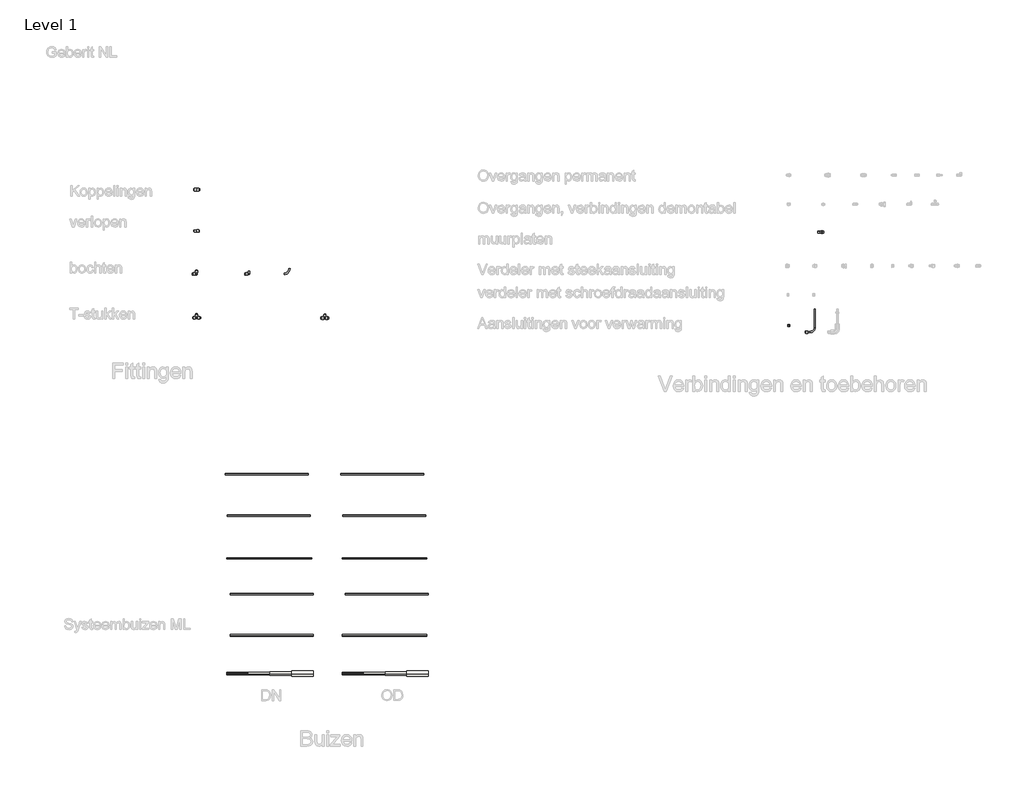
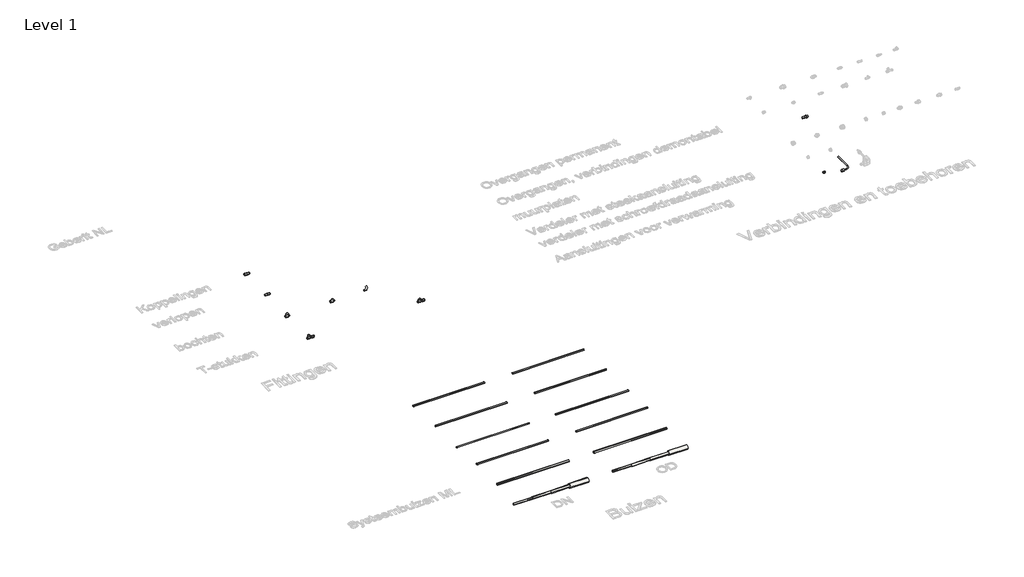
# One storey, part 1 of 9: 19 pipe segments, 10 coverings, 9 pipe fittings.
"""IFC4 building model written with IfcOpenShell, lengths in millimetres."""

from ifc_helpers import new_model, si_unit, point, frame, frame_2d, origin, place, context, project, spatial, circle_curve, trimmed, segment, composite_curve, outline, extrude, transform, mapped, element, save
from components import pipe_fitting_a43a226b, pipe_fitting_dd8badfe, dn12_15_d16_20_1933c9d4, dn12_15_d16_20_9174b6bf, dn12_20_d16_25_6916eeb4, dn12_20_d16_25_b63a6013, dn12_20_d16_25_a9f4dc1a, dn12_20_d16_25_c7b3e6c1, dn12_20_d16_25_7a63371c, dn12_20_d16_25_e8a55d3e

model = new_model("IFC4")

# Units and contexts
model_context = context("Model", 3, world=origin())
ifc_project = project(units=[si_unit("LENGTHUNIT", "METRE", prefix="MILLI")], contexts=[model_context])

# Site, building, storey
site = spatial("IfcSite", under=ifc_project)
building = spatial("IfcBuilding", under=site)
storey = spatial("IfcBuildingStorey", under=building, Name="Level 1", Elevation=0.0)

# Coverings
placement = place(None, origin())
element("IfcCovering", 1, ObjectType="PE-zachtschuim rood (6mm) voor ML", at=placement, inside=storey, context=model_context, shape_type="SweptSolid", body=[
    extrude(outline(composite_curve([segment(trimmed(circle_curve(frame_2d((-320.8939923, 0.0)), 14.0), [point((-306.8939923, 0.0))], [point((-320.8939923, -14.0))], False, "CARTESIAN"), True, "CONTINUOUS"), segment(trimmed(circle_curve(frame_2d((-320.8939923, 0.0)), 14.0), [point((-320.8939923, -14.0))], [point((-334.8939923, 0.0))], False, "CARTESIAN"), True, "CONTINUOUS"), segment(trimmed(circle_curve(frame_2d((-320.8939923, 0.0)), 14.0), [point((-334.8939923, 0.0))], [point((-320.8939923, 14.0))], False, "CARTESIAN"), True, "CONTINUOUS"), segment(trimmed(circle_curve(frame_2d((-320.8939923, 0.0)), 14.0), [point((-320.8939923, 14.0))], [point((-306.8939923, 0.0))], False, "CARTESIAN"), True, "CONTINUOUS")], self_intersect=False)), frame((227.5416352, 0.0, 0.0), z_axis=(1.0, 0.0, 0.0), x_axis=(0.0, 1.0, 0.0)), (0.0, 0.0, 1.0), 1080.0),
])
element("IfcCovering", 2, ObjectType="PE-zachtschuim rood (6mm) voor ML", at=placement, inside=storey, context=model_context, shape_type="SweptSolid", body=[
    extrude(outline(composite_curve([segment(trimmed(circle_curve(frame_2d((-320.8939923, 0.0)), 14.0), [point((-306.8939923, 0.0))], [point((-320.8939923, -14.0))], False, "CARTESIAN"), True, "CONTINUOUS"), segment(trimmed(circle_curve(frame_2d((-320.8939923, 0.0)), 14.0), [point((-320.8939923, -14.0))], [point((-334.8939923, 0.0))], False, "CARTESIAN"), True, "CONTINUOUS"), segment(trimmed(circle_curve(frame_2d((-320.8939923, 0.0)), 14.0), [point((-334.8939923, 0.0))], [point((-320.8939923, 14.0))], False, "CARTESIAN"), True, "CONTINUOUS"), segment(trimmed(circle_curve(frame_2d((-320.8939923, 0.0)), 14.0), [point((-320.8939923, 14.0))], [point((-306.8939923, 0.0))], False, "CARTESIAN"), True, "CONTINUOUS")], self_intersect=False)), frame((1687.1216877, 0.0, 0.0), z_axis=(1.0, 0.0, 0.0), x_axis=(0.0, 1.0, 0.0)), (0.0, 0.0, 1.0), 1100.0),
])
element("IfcCovering", 3, ObjectType="PE-zachtschuim blauw (6-10-13-26mm) voor ML", at=placement, inside=storey, context=model_context, shape_type="SweptSolid", body=[
    extrude(outline(composite_curve([segment(trimmed(circle_curve(frame_2d((-820.8939923, 0.0)), 14.0), [point((-806.8939923, 0.0))], [point((-820.8939923, -14.0))], False, "CARTESIAN"), True, "CONTINUOUS"), segment(trimmed(circle_curve(frame_2d((-820.8939923, 0.0)), 14.0), [point((-820.8939923, -14.0))], [point((-834.8939923, 0.0))], False, "CARTESIAN"), True, "CONTINUOUS"), segment(trimmed(circle_curve(frame_2d((-820.8939923, 0.0)), 14.0), [point((-834.8939923, 0.0))], [point((-820.8939923, 14.0))], False, "CARTESIAN"), True, "CONTINUOUS"), segment(trimmed(circle_curve(frame_2d((-820.8939923, 0.0)), 14.0), [point((-820.8939923, 14.0))], [point((-806.8939923, 0.0))], False, "CARTESIAN"), True, "CONTINUOUS")], self_intersect=False)), frame((187.1216877, 0.0, 0.0), z_axis=(1.0, 0.0, 0.0), x_axis=(0.0, 1.0, 0.0)), (0.0, 0.0, 1.0), 280.0),
])
element("IfcCovering", 4, ObjectType="PE-zachtschuim blauw (6-10-13-26mm) voor ML", at=placement, inside=storey, context=model_context, shape_type="SweptSolid", body=[
    extrude(outline(composite_curve([segment(trimmed(circle_curve(frame_2d((-820.8939923, 0.0)), 14.0), [point((-806.8939923, 0.0))], [point((-820.8939923, -14.0))], False, "CARTESIAN"), True, "CONTINUOUS"), segment(trimmed(circle_curve(frame_2d((-820.8939923, 0.0)), 14.0), [point((-820.8939923, -14.0))], [point((-834.8939923, 0.0))], False, "CARTESIAN"), True, "CONTINUOUS"), segment(trimmed(circle_curve(frame_2d((-820.8939923, 0.0)), 14.0), [point((-834.8939923, 0.0))], [point((-820.8939923, 14.0))], False, "CARTESIAN"), True, "CONTINUOUS"), segment(trimmed(circle_curve(frame_2d((-820.8939923, 0.0)), 14.0), [point((-820.8939923, 14.0))], [point((-806.8939923, 0.0))], False, "CARTESIAN"), True, "CONTINUOUS")], self_intersect=False)), frame((1687.1216877, 0.0, 0.0), z_axis=(1.0, 0.0, 0.0), x_axis=(0.0, 1.0, 0.0)), (0.0, 0.0, 1.0), 280.0),
])
element("IfcCovering", 5, ObjectType="PE-zachtschuim blauw (6-10-13-26mm) voor ML", at=placement, inside=storey, context=model_context, shape_type="SweptSolid", body=[
    extrude(outline(composite_curve([segment(trimmed(circle_curve(frame_2d((-820.8939923, 0.0)), 18.0), [point((-802.8939923, 0.0))], [point((-820.8939923, -18.0))], False, "CARTESIAN"), True, "CONTINUOUS"), segment(trimmed(circle_curve(frame_2d((-820.8939923, 0.0)), 18.0), [point((-820.8939923, -18.0))], [point((-838.8939923, 0.0))], False, "CARTESIAN"), True, "CONTINUOUS"), segment(trimmed(circle_curve(frame_2d((-820.8939923, 0.0)), 18.0), [point((-838.8939923, 0.0))], [point((-820.8939923, 18.0))], False, "CARTESIAN"), True, "CONTINUOUS"), segment(trimmed(circle_curve(frame_2d((-820.8939923, 0.0)), 18.0), [point((-820.8939923, 18.0))], [point((-802.8939923, 0.0))], False, "CARTESIAN"), True, "CONTINUOUS")], self_intersect=False)), frame((467.1216877, 0.0, 0.0), z_axis=(1.0, 0.0, 0.0), x_axis=(0.0, 1.0, 0.0)), (0.0, 0.0, 1.0), 280.0),
])
element("IfcCovering", 6, ObjectType="PE-zachtschuim blauw (6-10-13-26mm) voor ML", at=placement, inside=storey, context=model_context, shape_type="SweptSolid", body=[
    extrude(outline(composite_curve([segment(trimmed(circle_curve(frame_2d((-820.8939923, 0.0)), 18.0), [point((-802.8939923, 0.0))], [point((-820.8939923, -18.0))], False, "CARTESIAN"), True, "CONTINUOUS"), segment(trimmed(circle_curve(frame_2d((-820.8939923, 0.0)), 18.0), [point((-820.8939923, -18.0))], [point((-838.8939923, 0.0))], False, "CARTESIAN"), True, "CONTINUOUS"), segment(trimmed(circle_curve(frame_2d((-820.8939923, 0.0)), 18.0), [point((-838.8939923, 0.0))], [point((-820.8939923, 18.0))], False, "CARTESIAN"), True, "CONTINUOUS"), segment(trimmed(circle_curve(frame_2d((-820.8939923, 0.0)), 18.0), [point((-820.8939923, 18.0))], [point((-802.8939923, 0.0))], False, "CARTESIAN"), True, "CONTINUOUS")], self_intersect=False)), frame((1967.1216877, 0.0, 0.0), z_axis=(1.0, 0.0, 0.0), x_axis=(0.0, 1.0, 0.0)), (0.0, 0.0, 1.0), 280.0),
])
element("IfcCovering", 7, ObjectType="PE-zachtschuim blauw (6-10-13-26mm) voor ML", at=placement, inside=storey, context=model_context, shape_type="SweptSolid", body=[
    extrude(outline(composite_curve([segment(trimmed(circle_curve(frame_2d((-820.8939923, 0.0)), 21.0), [point((-799.8939923, 0.0))], [point((-820.8939923, -21.0))], False, "CARTESIAN"), True, "CONTINUOUS"), segment(trimmed(circle_curve(frame_2d((-820.8939923, 0.0)), 21.0), [point((-820.8939923, -21.0))], [point((-841.8939923, 0.0))], False, "CARTESIAN"), True, "CONTINUOUS"), segment(trimmed(circle_curve(frame_2d((-820.8939923, 0.0)), 21.0), [point((-841.8939923, 0.0))], [point((-820.8939923, 21.0))], False, "CARTESIAN"), True, "CONTINUOUS"), segment(trimmed(circle_curve(frame_2d((-820.8939923, 0.0)), 21.0), [point((-820.8939923, 21.0))], [point((-799.8939923, 0.0))], False, "CARTESIAN"), True, "CONTINUOUS")], self_intersect=False)), frame((747.1216877, 0.0, 0.0), z_axis=(1.0, 0.0, 0.0), x_axis=(0.0, 1.0, 0.0)), (0.0, 0.0, 1.0), 280.0),
])
element("IfcCovering", 8, ObjectType="PE-zachtschuim blauw (6-10-13-26mm) voor ML", at=placement, inside=storey, context=model_context, shape_type="SweptSolid", body=[
    extrude(outline(composite_curve([segment(trimmed(circle_curve(frame_2d((-820.8939923, 0.0)), 21.0), [point((-799.8939923, 0.0))], [point((-820.8939923, -21.0))], False, "CARTESIAN"), True, "CONTINUOUS"), segment(trimmed(circle_curve(frame_2d((-820.8939923, 0.0)), 21.0), [point((-820.8939923, -21.0))], [point((-841.8939923, 0.0))], False, "CARTESIAN"), True, "CONTINUOUS"), segment(trimmed(circle_curve(frame_2d((-820.8939923, 0.0)), 21.0), [point((-841.8939923, 0.0))], [point((-820.8939923, 21.0))], False, "CARTESIAN"), True, "CONTINUOUS"), segment(trimmed(circle_curve(frame_2d((-820.8939923, 0.0)), 21.0), [point((-820.8939923, 21.0))], [point((-799.8939923, 0.0))], False, "CARTESIAN"), True, "CONTINUOUS")], self_intersect=False)), frame((2247.1216877, 0.0, 0.0), z_axis=(1.0, 0.0, 0.0), x_axis=(0.0, 1.0, 0.0)), (0.0, 0.0, 1.0), 280.0),
])
element("IfcCovering", 9, ObjectType="PE-zachtschuim blauw (6-10-13-26mm) voor ML", at=placement, inside=storey, context=model_context, shape_type="SweptSolid", body=[
    extrude(outline(composite_curve([segment(trimmed(circle_curve(frame_2d((-820.8939923, 0.0)), 34.0), [point((-786.8939923, 0.0))], [point((-820.8939923, -34.0))], False, "CARTESIAN"), True, "CONTINUOUS"), segment(trimmed(circle_curve(frame_2d((-820.8939923, 0.0)), 34.0), [point((-820.8939923, -34.0))], [point((-854.8939923, 0.0))], False, "CARTESIAN"), True, "CONTINUOUS"), segment(trimmed(circle_curve(frame_2d((-820.8939923, 0.0)), 34.0), [point((-854.8939923, 0.0))], [point((-820.8939923, 34.0))], False, "CARTESIAN"), True, "CONTINUOUS"), segment(trimmed(circle_curve(frame_2d((-820.8939923, 0.0)), 34.0), [point((-820.8939923, 34.0))], [point((-786.8939923, 0.0))], False, "CARTESIAN"), True, "CONTINUOUS")], self_intersect=False)), frame((1027.1216877, 0.0, 0.0), z_axis=(1.0, 0.0, 0.0), x_axis=(0.0, 1.0, 0.0)), (0.0, 0.0, 1.0), 280.0),
])
element("IfcCovering", 10, ObjectType="PE-zachtschuim blauw (6-10-13-26mm) voor ML", at=placement, inside=storey, context=model_context, shape_type="SweptSolid", body=[
    extrude(outline(composite_curve([segment(trimmed(circle_curve(frame_2d((-820.8939923, 0.0)), 34.0), [point((-786.8939923, 0.0))], [point((-820.8939923, -34.0))], False, "CARTESIAN"), True, "CONTINUOUS"), segment(trimmed(circle_curve(frame_2d((-820.8939923, 0.0)), 34.0), [point((-820.8939923, -34.0))], [point((-854.8939923, 0.0))], False, "CARTESIAN"), True, "CONTINUOUS"), segment(trimmed(circle_curve(frame_2d((-820.8939923, 0.0)), 34.0), [point((-854.8939923, 0.0))], [point((-820.8939923, 34.0))], False, "CARTESIAN"), True, "CONTINUOUS"), segment(trimmed(circle_curve(frame_2d((-820.8939923, 0.0)), 34.0), [point((-820.8939923, 34.0))], [point((-786.8939923, 0.0))], False, "CARTESIAN"), True, "CONTINUOUS")], self_intersect=False)), frame((2527.1216877, 0.0, 0.0), z_axis=(1.0, 0.0, 0.0), x_axis=(0.0, 1.0, 0.0)), (0.0, 0.0, 1.0), 280.0),
])

# Pipe fittings
pipe_fitting_shape = pipe_fitting_a43a226b(model_context)
element("IfcPipeFitting", 11, ObjectType="NLRS_50_PIF_UN_adapter Euroconus, met buitendraad_geb : DN15-20/ G3/4'' / d20-26/ G3/4''", at=placement, inside=storey, context=model_context, shape_type="MappedRepresentation", body=[
    mapped(pipe_fitting_shape, transform((7496.5726098, 3711.5923365, 0.0), x_axis=(1.0, 0.0, 0.0), y_axis=(0.0, 1.0, 0.0), z_axis=(0.0, 0.0, 1.0))),
])
pipe_fitting_2_shape = pipe_fitting_dd8badfe(model_context)
element("IfcPipeFitting", 12, ObjectType="NLRS_50_PIF_UN_muurplaat rechte aansluiting met buitendraad MF 1_2_geb : DN15-15 / Rp1/2''-R1/2''", at=placement, inside=storey, context=model_context, shape_type="MappedRepresentation", body=[
    mapped(pipe_fitting_2_shape, transform((7911.2505491, 4926.139656, 0.0), x_axis=(1.0, 0.0, 0.0), y_axis=(0.0, 1.0, 0.0), z_axis=(0.0, 0.0, 1.0))),
])
dn12_15_d16_20_shape = dn12_15_d16_20_1933c9d4(model_context)
element("IfcPipeFitting", 13, ObjectType="NLRS_50_PIF_UN_PushFit radiatoraansluiting 90°_geb : DN12-15 / d16-20", at=placement, inside=storey, context=model_context, shape_type="MappedRepresentation", body=[
    mapped(dn12_15_d16_20_shape, transform((7834.7552204, 3624.2053116, 0.0), x_axis=(1.0, 0.0, 0.0), y_axis=(0.0, 1.0, 0.0), z_axis=(0.0, 0.0, 1.0))),
])
dn12_15_d16_20_2_shape = dn12_15_d16_20_9174b6bf(model_context)
element("IfcPipeFitting", 14, ObjectType="NLRS_50_PIF_UN_PushFit bocht 90° met insteekeinde_geb : DN12-15 / d16-20", at=placement, inside=storey, context=model_context, shape_type="MappedRepresentation", body=[
    mapped(dn12_15_d16_20_2_shape, transform((475.0193945, 4382.2609072, 0.0), x_axis=(1.0, 0.0, 0.0), y_axis=(0.0, 1.0, 0.0), z_axis=(0.0, 0.0, 1.0))),
])
dn12_20_d16_25_shape = dn12_20_d16_25_6916eeb4(model_context)
element("IfcPipeFitting", 15, ObjectType="NLRS_50_PIF_UN_PushFit T-stuk_geb : DN12-20 / d16-25", at=placement, inside=storey, context=model_context, shape_type="MappedRepresentation", body=[
    mapped(dn12_20_d16_25_shape, transform((1460.8272631, 3807.8721001, 0.0), x_axis=(1.0, 0.0, 0.0), y_axis=(0.0, 1.0, 0.0), z_axis=(0.0, 0.0, 1.0))),
])
dn12_20_d16_25_2_shape = dn12_20_d16_25_b63a6013(model_context)
element("IfcPipeFitting", 16, ObjectType="NLRS_50_PIF_UN_PushFit bocht 90°_geb : DN12-20 / d16-25", at=placement, inside=storey, context=model_context, shape_type="MappedRepresentation", body=[
    mapped(dn12_20_d16_25_2_shape, transform((-208.3631001, 4382.2609072, 0.0), x_axis=(1.0, 0.0, 0.0), y_axis=(0.0, 1.0, 0.0), z_axis=(0.0, 0.0, 1.0))),
])
dn12_20_d16_25_3_shape = dn12_20_d16_25_a9f4dc1a(model_context)
element("IfcPipeFitting", 17, ObjectType="NLRS_50_PIF_UN_PushFit koppeling_geb : DN12-20 / d16-25", at=placement, inside=storey, context=model_context, shape_type="MappedRepresentation", body=[
    mapped(dn12_20_d16_25_3_shape, transform((-208.3631001, 5480.3361478, 0.0), x_axis=(1.0, 0.0, 0.0), y_axis=(0.0, 1.0, 0.0), z_axis=(0.0, 0.0, 1.0))),
])
dn12_20_d16_25_4_shape = dn12_20_d16_25_c7b3e6c1(model_context)
element("IfcPipeFitting", 18, ObjectType="NLRS_50_PIF_UN_PushFit verloop_geb : DN12-20 / d16-25", at=placement, inside=storey, context=model_context, shape_type="MappedRepresentation", body=[
    mapped(dn12_20_d16_25_4_shape, transform((-208.3631001, 4941.4035144, 0.0), x_axis=(1.0, 0.0, 0.0), y_axis=(0.0, 1.0, 0.0), z_axis=(0.0, 0.0, 1.0))),
])
dn12_20_d16_25_5_shape = dn12_20_d16_25_7a63371c(model_context)
element("IfcPipeFitting", 19, ObjectType="NLRS_50_PIF_UN_PushFit gelijkzijdig T-stuk_geb : DN12-20 / d16-25", at=placement, inside=storey, context=model_context, shape_type="MappedRepresentation", body=[
    mapped(dn12_20_d16_25_5_shape, transform((-208.3631001, 3810.8495828, 0.0), x_axis=(1.0, 0.0, 0.0), y_axis=(0.0, 1.0, 0.0), z_axis=(0.0, 0.0, 1.0))),
])

# Pipe segments
element("IfcPipeSegment", 20, ObjectType="NLRS_50_PI_PushFit ML (DN)_geb", at=placement, inside=storey, context=model_context, shape_type="SweptSolid", body=[
    extrude(outline(composite_curve([segment(trimmed(circle_curve(frame_2d((1777.1812483, 0.0)), 10.0), [point((1767.1812483, 0.0))], [point((1777.1812483, 10.0))], False, "CARTESIAN"), True, "CONTINUOUS"), segment(trimmed(circle_curve(frame_2d((1777.1812483, 0.0)), 10.0), [point((1777.1812483, 10.0))], [point((1787.1812483, 0.0))], False, "CARTESIAN"), True, "CONTINUOUS"), segment(trimmed(circle_curve(frame_2d((1777.1812483, 0.0)), 10.0), [point((1787.1812483, 0.0))], [point((1777.1812483, -10.0))], False, "CARTESIAN"), True, "CONTINUOUS"), segment(trimmed(circle_curve(frame_2d((1777.1812483, 0.0)), 10.0), [point((1777.1812483, -10.0))], [point((1767.1812483, 0.0))], False, "CARTESIAN"), True, "CONTINUOUS")], self_intersect=False)), frame((166.9117139, 0.0, 0.0), z_axis=(1.0, 0.0, 0.0), x_axis=(0.0, 1.0, 0.0)), (0.0, 0.0, 1.0), 1080.0),
])
element("IfcPipeSegment", 21, ObjectType="NLRS_50_PI_PushFit ML (DN)_geb", at=placement, inside=storey, context=model_context, shape_type="SweptSolid", body=[
    extrude(outline(composite_curve([segment(trimmed(circle_curve(frame_2d((1238.2486149, 0.0)), 10.0), [point((1228.2486149, 0.0))], [point((1238.2486149, 10.0))], False, "CARTESIAN"), True, "CONTINUOUS"), segment(trimmed(circle_curve(frame_2d((1238.2486149, 0.0)), 10.0), [point((1238.2486149, 10.0))], [point((1248.2486149, 0.0))], False, "CARTESIAN"), True, "CONTINUOUS"), segment(trimmed(circle_curve(frame_2d((1238.2486149, 0.0)), 10.0), [point((1248.2486149, 0.0))], [point((1238.2486149, -10.0))], False, "CARTESIAN"), True, "CONTINUOUS"), segment(trimmed(circle_curve(frame_2d((1238.2486149, 0.0)), 10.0), [point((1238.2486149, -10.0))], [point((1228.2486149, 0.0))], False, "CARTESIAN"), True, "CONTINUOUS")], self_intersect=False)), frame((193.8583456, 0.0, 0.0), z_axis=(1.0, 0.0, 0.0), x_axis=(0.0, 1.0, 0.0)), (0.0, 0.0, 1.0), 1080.0),
])
element("IfcPipeSegment", 22, ObjectType="NLRS_50_PI_PushFit ML (DN)_geb", at=placement, inside=storey, context=model_context, shape_type="SweptSolid", body=[
    extrude(outline(composite_curve([segment(trimmed(circle_curve(frame_2d((679.1060077, 0.0)), 8.0), [point((671.1060077, 0.0))], [point((679.1060077, 8.0))], False, "CARTESIAN"), True, "CONTINUOUS"), segment(trimmed(circle_curve(frame_2d((679.1060077, 0.0)), 8.0), [point((679.1060077, 8.0))], [point((687.1060077, 0.0))], False, "CARTESIAN"), True, "CONTINUOUS"), segment(trimmed(circle_curve(frame_2d((679.1060077, 0.0)), 8.0), [point((687.1060077, 0.0))], [point((679.1060077, -8.0))], False, "CARTESIAN"), True, "CONTINUOUS"), segment(trimmed(circle_curve(frame_2d((679.1060077, 0.0)), 8.0), [point((679.1060077, -8.0))], [point((671.1060077, 0.0))], False, "CARTESIAN"), True, "CONTINUOUS")], self_intersect=False)), frame((187.1216877, 0.0, 0.0), z_axis=(1.0, 0.0, 0.0), x_axis=(0.0, 1.0, 0.0)), (0.0, 0.0, 1.0), 1100.0),
])
element("IfcPipeSegment", 23, ObjectType="NLRS_50_PI_PushFit ML (DN)_geb", at=placement, inside=storey, context=model_context, shape_type="SweptSolid", body=[
    extrude(outline(composite_curve([segment(trimmed(circle_curve(frame_2d((214.2766114, 0.0)), 10.0), [point((204.2766114, 0.0))], [point((214.2766114, 10.0))], False, "CARTESIAN"), True, "CONTINUOUS"), segment(trimmed(circle_curve(frame_2d((214.2766114, 0.0)), 10.0), [point((214.2766114, 10.0))], [point((224.2766114, 0.0))], False, "CARTESIAN"), True, "CONTINUOUS"), segment(trimmed(circle_curve(frame_2d((214.2766114, 0.0)), 10.0), [point((224.2766114, 0.0))], [point((214.2766114, -10.0))], False, "CARTESIAN"), True, "CONTINUOUS"), segment(trimmed(circle_curve(frame_2d((214.2766114, 0.0)), 10.0), [point((214.2766114, -10.0))], [point((204.2766114, 0.0))], False, "CARTESIAN"), True, "CONTINUOUS")], self_intersect=False)), frame((227.5416352, 0.0, 0.0), z_axis=(1.0, 0.0, 0.0), x_axis=(0.0, 1.0, 0.0)), (0.0, 0.0, 1.0), 1080.0),
])
element("IfcPipeSegment", 24, ObjectType="NLRS_50_PI_PushFit ML (DN)_geb", at=placement, inside=storey, context=model_context, shape_type="SweptSolid", body=[
    extrude(outline(composite_curve([segment(trimmed(circle_curve(frame_2d((1777.1812483, 0.0)), 10.0), [point((1767.1812483, 0.0))], [point((1777.1812483, 10.0))], False, "CARTESIAN"), True, "CONTINUOUS"), segment(trimmed(circle_curve(frame_2d((1777.1812483, 0.0)), 10.0), [point((1777.1812483, 10.0))], [point((1787.1812483, 0.0))], False, "CARTESIAN"), True, "CONTINUOUS"), segment(trimmed(circle_curve(frame_2d((1777.1812483, 0.0)), 10.0), [point((1787.1812483, 0.0))], [point((1777.1812483, -10.0))], False, "CARTESIAN"), True, "CONTINUOUS"), segment(trimmed(circle_curve(frame_2d((1777.1812483, 0.0)), 10.0), [point((1777.1812483, -10.0))], [point((1767.1812483, 0.0))], False, "CARTESIAN"), True, "CONTINUOUS")], self_intersect=False)), frame((1666.9117139, 0.0, 0.0), z_axis=(1.0, 0.0, 0.0), x_axis=(0.0, 1.0, 0.0)), (0.0, 0.0, 1.0), 1080.0),
])
element("IfcPipeSegment", 25, ObjectType="NLRS_50_PI_PushFit ML (OD)_geb", at=placement, inside=storey, context=model_context, shape_type="SweptSolid", body=[
    extrude(outline(composite_curve([segment(trimmed(circle_curve(frame_2d((1238.2486149, 0.0)), 10.0), [point((1228.2486149, 0.0))], [point((1238.2486149, 10.0))], False, "CARTESIAN"), True, "CONTINUOUS"), segment(trimmed(circle_curve(frame_2d((1238.2486149, 0.0)), 10.0), [point((1238.2486149, 10.0))], [point((1248.2486149, 0.0))], False, "CARTESIAN"), True, "CONTINUOUS"), segment(trimmed(circle_curve(frame_2d((1238.2486149, 0.0)), 10.0), [point((1248.2486149, 0.0))], [point((1238.2486149, -10.0))], False, "CARTESIAN"), True, "CONTINUOUS"), segment(trimmed(circle_curve(frame_2d((1238.2486149, 0.0)), 10.0), [point((1238.2486149, -10.0))], [point((1228.2486149, 0.0))], False, "CARTESIAN"), True, "CONTINUOUS")], self_intersect=False)), frame((1693.8583456, 0.0, 0.0), z_axis=(1.0, 0.0, 0.0), x_axis=(0.0, 1.0, 0.0)), (0.0, 0.0, 1.0), 1080.0),
])
element("IfcPipeSegment", 26, ObjectType="NLRS_50_PI_PushFit ML (OD)_geb", at=placement, inside=storey, context=model_context, shape_type="SweptSolid", body=[
    extrude(outline(composite_curve([segment(trimmed(circle_curve(frame_2d((679.1060077, 0.0)), 8.0), [point((671.1060077, 0.0))], [point((679.1060077, 8.0))], False, "CARTESIAN"), True, "CONTINUOUS"), segment(trimmed(circle_curve(frame_2d((679.1060077, 0.0)), 8.0), [point((679.1060077, 8.0))], [point((687.1060077, 0.0))], False, "CARTESIAN"), True, "CONTINUOUS"), segment(trimmed(circle_curve(frame_2d((679.1060077, 0.0)), 8.0), [point((687.1060077, 0.0))], [point((679.1060077, -8.0))], False, "CARTESIAN"), True, "CONTINUOUS"), segment(trimmed(circle_curve(frame_2d((679.1060077, 0.0)), 8.0), [point((679.1060077, -8.0))], [point((671.1060077, 0.0))], False, "CARTESIAN"), True, "CONTINUOUS")], self_intersect=False)), frame((1687.1216877, 0.0, 0.0), z_axis=(1.0, 0.0, 0.0), x_axis=(0.0, 1.0, 0.0)), (0.0, 0.0, 1.0), 1100.0),
])
element("IfcPipeSegment", 27, ObjectType="NLRS_50_PI_PushFit ML (OD)_geb", at=placement, inside=storey, context=model_context, shape_type="SweptSolid", body=[
    extrude(outline(composite_curve([segment(trimmed(circle_curve(frame_2d((214.2766114, 0.0)), 10.0), [point((204.2766114, 0.0))], [point((214.2766114, 10.0))], False, "CARTESIAN"), True, "CONTINUOUS"), segment(trimmed(circle_curve(frame_2d((214.2766114, 0.0)), 10.0), [point((214.2766114, 10.0))], [point((224.2766114, 0.0))], False, "CARTESIAN"), True, "CONTINUOUS"), segment(trimmed(circle_curve(frame_2d((214.2766114, 0.0)), 10.0), [point((224.2766114, 0.0))], [point((214.2766114, -10.0))], False, "CARTESIAN"), True, "CONTINUOUS"), segment(trimmed(circle_curve(frame_2d((214.2766114, 0.0)), 10.0), [point((214.2766114, -10.0))], [point((204.2766114, 0.0))], False, "CARTESIAN"), True, "CONTINUOUS")], self_intersect=False)), frame((1727.5416352, 0.0, 0.0), z_axis=(1.0, 0.0, 0.0), x_axis=(0.0, 1.0, 0.0)), (0.0, 0.0, 1.0), 1080.0),
])
element("IfcPipeSegment", 28, ObjectType="NLRS_50_PI_PushFit ML (OD)_geb", at=placement, inside=storey, context=model_context, shape_type="SweptSolid", body=[
    extrude(outline(composite_curve([segment(trimmed(circle_curve(frame_2d((-320.8939923, 0.0)), 8.0), [point((-328.8939923, 0.0))], [point((-320.8939923, 8.0))], False, "CARTESIAN"), True, "CONTINUOUS"), segment(trimmed(circle_curve(frame_2d((-320.8939923, 0.0)), 8.0), [point((-320.8939923, 8.0))], [point((-312.8939923, 0.0))], False, "CARTESIAN"), True, "CONTINUOUS"), segment(trimmed(circle_curve(frame_2d((-320.8939923, 0.0)), 8.0), [point((-312.8939923, 0.0))], [point((-320.8939923, -8.0))], False, "CARTESIAN"), True, "CONTINUOUS"), segment(trimmed(circle_curve(frame_2d((-320.8939923, 0.0)), 8.0), [point((-320.8939923, -8.0))], [point((-328.8939923, 0.0))], False, "CARTESIAN"), True, "CONTINUOUS")], self_intersect=False)), frame((1687.1216877, 0.0, 0.0), z_axis=(1.0, 0.0, 0.0), x_axis=(0.0, 1.0, 0.0)), (0.0, 0.0, 1.0), 1100.0),
])
element("IfcPipeSegment", 29, ObjectType="NLRS_50_PI_PushFit ML (DN)_geb", at=placement, inside=storey, context=model_context, shape_type="SweptSolid", body=[
    extrude(outline(composite_curve([segment(trimmed(circle_curve(frame_2d((-320.8939923, 0.0)), 8.0), [point((-328.8939923, 0.0))], [point((-320.8939923, 8.0))], False, "CARTESIAN"), True, "CONTINUOUS"), segment(trimmed(circle_curve(frame_2d((-320.8939923, 0.0)), 8.0), [point((-320.8939923, 8.0))], [point((-312.8939923, 0.0))], False, "CARTESIAN"), True, "CONTINUOUS"), segment(trimmed(circle_curve(frame_2d((-320.8939923, 0.0)), 8.0), [point((-312.8939923, 0.0))], [point((-320.8939923, -8.0))], False, "CARTESIAN"), True, "CONTINUOUS"), segment(trimmed(circle_curve(frame_2d((-320.8939923, 0.0)), 8.0), [point((-320.8939923, -8.0))], [point((-328.8939923, 0.0))], False, "CARTESIAN"), True, "CONTINUOUS")], self_intersect=False)), frame((227.5416352, 0.0, 0.0), z_axis=(1.0, 0.0, 0.0), x_axis=(0.0, 1.0, 0.0)), (0.0, 0.0, 1.0), 1080.0),
])
element("IfcPipeSegment", 30, ObjectType="NLRS_50_PI_PushFit ML (DN)_geb", at=placement, inside=storey, context=model_context, shape_type="SweptSolid", body=[
    extrude(outline(composite_curve([segment(trimmed(circle_curve(frame_2d((-820.8939923, 0.0)), 8.0), [point((-828.8939923, 0.0))], [point((-820.8939923, 8.0))], False, "CARTESIAN"), True, "CONTINUOUS"), segment(trimmed(circle_curve(frame_2d((-820.8939923, 0.0)), 8.0), [point((-820.8939923, 8.0))], [point((-812.8939923, 0.0))], False, "CARTESIAN"), True, "CONTINUOUS"), segment(trimmed(circle_curve(frame_2d((-820.8939923, 0.0)), 8.0), [point((-812.8939923, 0.0))], [point((-820.8939923, -8.0))], False, "CARTESIAN"), True, "CONTINUOUS"), segment(trimmed(circle_curve(frame_2d((-820.8939923, 0.0)), 8.0), [point((-820.8939923, -8.0))], [point((-828.8939923, 0.0))], False, "CARTESIAN"), True, "CONTINUOUS")], self_intersect=False)), frame((187.1216877, 0.0, 0.0), z_axis=(1.0, 0.0, 0.0), x_axis=(0.0, 1.0, 0.0)), (0.0, 0.0, 1.0), 280.0),
])
element("IfcPipeSegment", 31, ObjectType="NLRS_50_PI_PushFit ML (OD)_geb", at=placement, inside=storey, context=model_context, shape_type="SweptSolid", body=[
    extrude(outline(composite_curve([segment(trimmed(circle_curve(frame_2d((-820.8939923, 0.0)), 8.0), [point((-828.8939923, 0.0))], [point((-820.8939923, 8.0))], False, "CARTESIAN"), True, "CONTINUOUS"), segment(trimmed(circle_curve(frame_2d((-820.8939923, 0.0)), 8.0), [point((-820.8939923, 8.0))], [point((-812.8939923, 0.0))], False, "CARTESIAN"), True, "CONTINUOUS"), segment(trimmed(circle_curve(frame_2d((-820.8939923, 0.0)), 8.0), [point((-812.8939923, 0.0))], [point((-820.8939923, -8.0))], False, "CARTESIAN"), True, "CONTINUOUS"), segment(trimmed(circle_curve(frame_2d((-820.8939923, 0.0)), 8.0), [point((-820.8939923, -8.0))], [point((-828.8939923, 0.0))], False, "CARTESIAN"), True, "CONTINUOUS")], self_intersect=False)), frame((1687.1216877, 0.0, 0.0), z_axis=(1.0, 0.0, 0.0), x_axis=(0.0, 1.0, 0.0)), (0.0, 0.0, 1.0), 280.0),
])
element("IfcPipeSegment", 32, ObjectType="NLRS_50_PI_PushFit ML (DN)_geb", at=placement, inside=storey, context=model_context, shape_type="SweptSolid", body=[
    extrude(outline(composite_curve([segment(trimmed(circle_curve(frame_2d((-820.8939923, 0.0)), 8.0), [point((-828.8939923, 0.0))], [point((-820.8939923, 8.0))], False, "CARTESIAN"), True, "CONTINUOUS"), segment(trimmed(circle_curve(frame_2d((-820.8939923, 0.0)), 8.0), [point((-820.8939923, 8.0))], [point((-812.8939923, 0.0))], False, "CARTESIAN"), True, "CONTINUOUS"), segment(trimmed(circle_curve(frame_2d((-820.8939923, 0.0)), 8.0), [point((-812.8939923, 0.0))], [point((-820.8939923, -8.0))], False, "CARTESIAN"), True, "CONTINUOUS"), segment(trimmed(circle_curve(frame_2d((-820.8939923, 0.0)), 8.0), [point((-820.8939923, -8.0))], [point((-828.8939923, 0.0))], False, "CARTESIAN"), True, "CONTINUOUS")], self_intersect=False)), frame((467.1216877, 0.0, 0.0), z_axis=(1.0, 0.0, 0.0), x_axis=(0.0, 1.0, 0.0)), (0.0, 0.0, 1.0), 280.0),
])
element("IfcPipeSegment", 33, ObjectType="NLRS_50_PI_PushFit ML (DN)_geb", at=placement, inside=storey, context=model_context, shape_type="SweptSolid", body=[
    extrude(outline(composite_curve([segment(trimmed(circle_curve(frame_2d((-820.8939923, 0.0)), 8.0), [point((-828.8939923, 0.0))], [point((-820.8939923, 8.0))], False, "CARTESIAN"), True, "CONTINUOUS"), segment(trimmed(circle_curve(frame_2d((-820.8939923, 0.0)), 8.0), [point((-820.8939923, 8.0))], [point((-812.8939923, 0.0))], False, "CARTESIAN"), True, "CONTINUOUS"), segment(trimmed(circle_curve(frame_2d((-820.8939923, 0.0)), 8.0), [point((-812.8939923, 0.0))], [point((-820.8939923, -8.0))], False, "CARTESIAN"), True, "CONTINUOUS"), segment(trimmed(circle_curve(frame_2d((-820.8939923, 0.0)), 8.0), [point((-820.8939923, -8.0))], [point((-828.8939923, 0.0))], False, "CARTESIAN"), True, "CONTINUOUS")], self_intersect=False)), frame((747.1216877, 0.0, 0.0), z_axis=(1.0, 0.0, 0.0), x_axis=(0.0, 1.0, 0.0)), (0.0, 0.0, 1.0), 280.0),
])
element("IfcPipeSegment", 34, ObjectType="NLRS_50_PI_PushFit ML (OD)_geb", at=placement, inside=storey, context=model_context, shape_type="SweptSolid", body=[
    extrude(outline(composite_curve([segment(trimmed(circle_curve(frame_2d((-820.8939923, 0.0)), 8.0), [point((-828.8939923, 0.0))], [point((-820.8939923, 8.0))], False, "CARTESIAN"), True, "CONTINUOUS"), segment(trimmed(circle_curve(frame_2d((-820.8939923, 0.0)), 8.0), [point((-820.8939923, 8.0))], [point((-812.8939923, 0.0))], False, "CARTESIAN"), True, "CONTINUOUS"), segment(trimmed(circle_curve(frame_2d((-820.8939923, 0.0)), 8.0), [point((-812.8939923, 0.0))], [point((-820.8939923, -8.0))], False, "CARTESIAN"), True, "CONTINUOUS"), segment(trimmed(circle_curve(frame_2d((-820.8939923, 0.0)), 8.0), [point((-820.8939923, -8.0))], [point((-828.8939923, 0.0))], False, "CARTESIAN"), True, "CONTINUOUS")], self_intersect=False)), frame((1967.1216877, 0.0, 0.0), z_axis=(1.0, 0.0, 0.0), x_axis=(0.0, 1.0, 0.0)), (0.0, 0.0, 1.0), 280.0),
])
element("IfcPipeSegment", 35, ObjectType="NLRS_50_PI_PushFit ML (OD)_geb", at=placement, inside=storey, context=model_context, shape_type="SweptSolid", body=[
    extrude(outline(composite_curve([segment(trimmed(circle_curve(frame_2d((-820.8939923, 0.0)), 8.0), [point((-828.8939923, 0.0))], [point((-820.8939923, 8.0))], False, "CARTESIAN"), True, "CONTINUOUS"), segment(trimmed(circle_curve(frame_2d((-820.8939923, 0.0)), 8.0), [point((-820.8939923, 8.0))], [point((-812.8939923, 0.0))], False, "CARTESIAN"), True, "CONTINUOUS"), segment(trimmed(circle_curve(frame_2d((-820.8939923, 0.0)), 8.0), [point((-812.8939923, 0.0))], [point((-820.8939923, -8.0))], False, "CARTESIAN"), True, "CONTINUOUS"), segment(trimmed(circle_curve(frame_2d((-820.8939923, 0.0)), 8.0), [point((-820.8939923, -8.0))], [point((-828.8939923, 0.0))], False, "CARTESIAN"), True, "CONTINUOUS")], self_intersect=False)), frame((2247.1216877, 0.0, 0.0), z_axis=(1.0, 0.0, 0.0), x_axis=(0.0, 1.0, 0.0)), (0.0, 0.0, 1.0), 280.0),
])
element("IfcPipeSegment", 36, ObjectType="NLRS_50_PI_PushFit ML (DN)_geb", at=placement, inside=storey, context=model_context, shape_type="SweptSolid", body=[
    extrude(outline(composite_curve([segment(trimmed(circle_curve(frame_2d((-820.8939923, 0.0)), 8.0), [point((-828.8939923, 0.0))], [point((-820.8939923, 8.0))], False, "CARTESIAN"), True, "CONTINUOUS"), segment(trimmed(circle_curve(frame_2d((-820.8939923, 0.0)), 8.0), [point((-820.8939923, 8.0))], [point((-812.8939923, 0.0))], False, "CARTESIAN"), True, "CONTINUOUS"), segment(trimmed(circle_curve(frame_2d((-820.8939923, 0.0)), 8.0), [point((-812.8939923, 0.0))], [point((-820.8939923, -8.0))], False, "CARTESIAN"), True, "CONTINUOUS"), segment(trimmed(circle_curve(frame_2d((-820.8939923, 0.0)), 8.0), [point((-820.8939923, -8.0))], [point((-828.8939923, 0.0))], False, "CARTESIAN"), True, "CONTINUOUS")], self_intersect=False)), frame((1027.1216877, 0.0, 0.0), z_axis=(1.0, 0.0, 0.0), x_axis=(0.0, 1.0, 0.0)), (0.0, 0.0, 1.0), 280.0),
])
element("IfcPipeSegment", 37, ObjectType="NLRS_50_PI_PushFit ML (OD)_geb", at=placement, inside=storey, context=model_context, shape_type="SweptSolid", body=[
    extrude(outline(composite_curve([segment(trimmed(circle_curve(frame_2d((-820.8939923, 0.0)), 8.0), [point((-828.8939923, 0.0))], [point((-820.8939923, 8.0))], False, "CARTESIAN"), True, "CONTINUOUS"), segment(trimmed(circle_curve(frame_2d((-820.8939923, 0.0)), 8.0), [point((-820.8939923, 8.0))], [point((-812.8939923, 0.0))], False, "CARTESIAN"), True, "CONTINUOUS"), segment(trimmed(circle_curve(frame_2d((-820.8939923, 0.0)), 8.0), [point((-812.8939923, 0.0))], [point((-820.8939923, -8.0))], False, "CARTESIAN"), True, "CONTINUOUS"), segment(trimmed(circle_curve(frame_2d((-820.8939923, 0.0)), 8.0), [point((-820.8939923, -8.0))], [point((-828.8939923, 0.0))], False, "CARTESIAN"), True, "CONTINUOUS")], self_intersect=False)), frame((2527.1216877, 0.0, 0.0), z_axis=(1.0, 0.0, 0.0), x_axis=(0.0, 1.0, 0.0)), (0.0, 0.0, 1.0), 280.0),
])
dn12_20_d16_25_6_shape = dn12_20_d16_25_e8a55d3e(model_context)
element("IfcPipeSegment", 38, ObjectType="NLRS_50_PIF_UN_PushFit ML gebogen bocht_geb : DN12-20 / d16-25", at=placement, inside=storey, context=model_context, shape_type="MappedRepresentation", body=[
    mapped(dn12_20_d16_25_6_shape, transform((1000.8272631, 4382.2609072, 0.0), x_axis=(1.0, 0.0, 0.0), y_axis=(0.0, 1.0, 0.0), z_axis=(0.0, 0.0, 1.0))),
])

save(model, "model.ifc")
